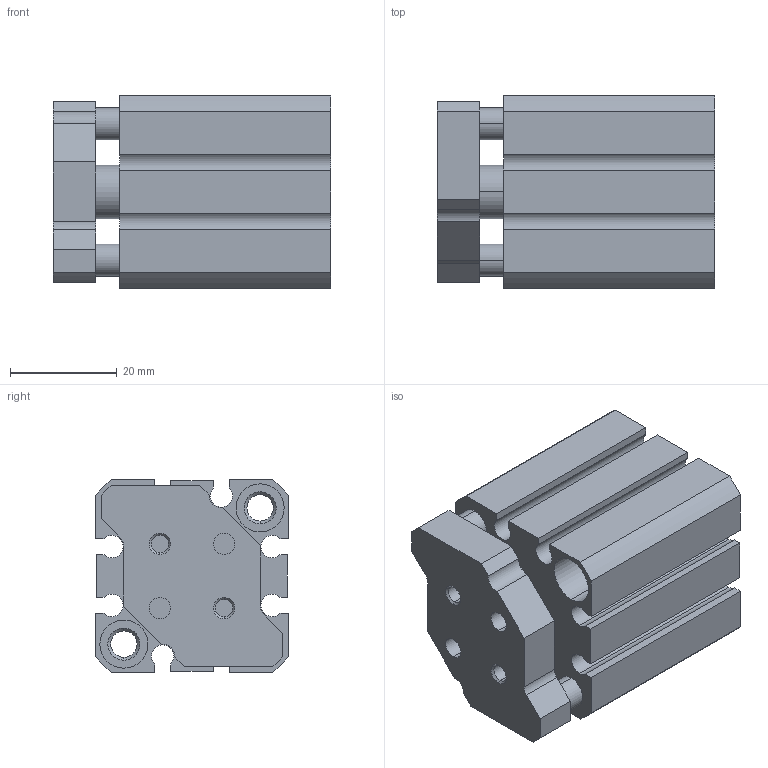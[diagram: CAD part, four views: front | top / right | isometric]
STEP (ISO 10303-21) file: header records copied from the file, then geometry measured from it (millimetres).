
FILE_DESCRIPTION (( 'STEP AP203' ), '1' );
FILE_NAME ('CCMG20-10.STEP', '2020-04-01T18:19:40', ( '' ), ( '' ), 'SwSTEP 2.0', 'SolidWorks 2019', '' );
FILE_SCHEMA (( 'CONFIG_CONTROL_DESIGN' ));
Length unit declared in the file: millimetre
Products named in the file (1): CCMG20-10
Bounding box: 52 x 36 x 36 mm (x, y, z)
Volume: 46453.1 mm3; surface area: 21144.2 mm2
Topology: 2 solids, 2 shells, 149 faces, 375 edges, 240 vertices
Faces by surface type: cylinder 69, plane 56, cone 24
Entity records: 4566 total; most frequent: DIRECTION 829, CARTESIAN_POINT 761, ORIENTED_EDGE 742, EDGE_CURVE 371, AXIS2_PLACEMENT_3D 308, VERTEX_POINT 240, VECTOR 213, LINE 213
